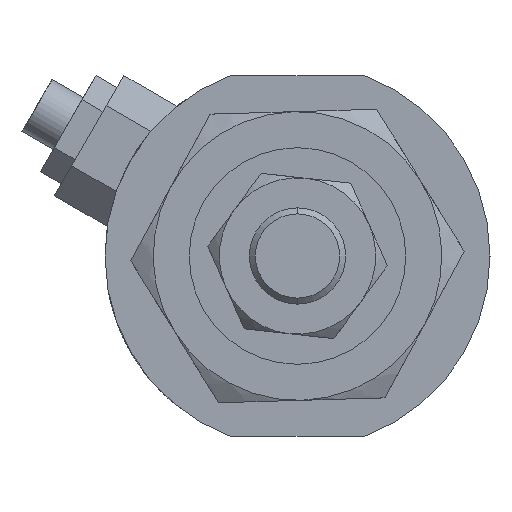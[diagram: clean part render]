
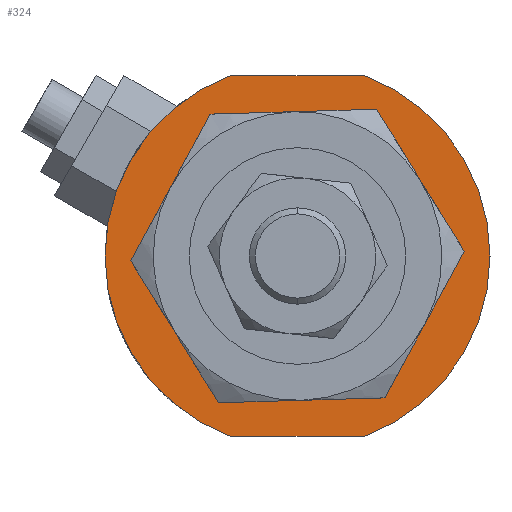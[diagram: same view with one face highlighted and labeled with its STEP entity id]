
A CAD part, left-side view. The second image highlights one B-rep face of the part: STEP entity #324.
In plain terms, the highlighted planar face has unit normal (-1, 0, 0).
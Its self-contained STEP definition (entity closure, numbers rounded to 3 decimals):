
#218 = CARTESIAN_POINT ( 'NONE',  ( 34., 0., 9.5 ) ) ;
#324 = ADVANCED_FACE ( 'NONE', ( #1475, #2744 ), #2490, .F. ) ;
#345 = ORIENTED_EDGE ( 'NONE', *, *, #686, .F. ) ;
#422 = DIRECTION ( 'NONE',  ( 0., 0., 1. ) ) ;
#431 = DIRECTION ( 'NONE',  ( 0., 0., 1. ) ) ;
#447 = DIRECTION ( 'NONE',  ( 0., -1., 0. ) ) ;
#499 = VERTEX_POINT ( 'NONE', #3468 ) ;
#520 = CARTESIAN_POINT ( 'NONE',  ( 34., 0., 0. ) ) ;
#618 = DIRECTION ( 'NONE',  ( -1., 0., 0. ) ) ;
#686 = EDGE_CURVE ( 'NONE', #1922, #2223, #1372, .T. ) ;
#767 = DIRECTION ( 'NONE',  ( -1., 0., 0. ) ) ;
#769 = CARTESIAN_POINT ( 'NONE',  ( 34., -5.568, 15. ) ) ;
#843 = CARTESIAN_POINT ( 'NONE',  ( 34., 0., -9.5 ) ) ;
#860 = CARTESIAN_POINT ( 'NONE',  ( 34., 0., 0. ) ) ;
#1153 = AXIS2_PLACEMENT_3D ( 'NONE', #520, #1262, #5022 ) ;
#1176 = EDGE_CURVE ( 'NONE', #499, #2223, #2916, .T. ) ;
#1259 = AXIS2_PLACEMENT_3D ( 'NONE', #1431, #2440, #422 ) ;
#1262 = DIRECTION ( 'NONE',  ( -1., 0., 0. ) ) ;
#1263 = LINE ( 'NONE', #1951, #4434 ) ;
#1372 = LINE ( 'NONE', #4958, #5005 ) ;
#1428 = DIRECTION ( 'NONE',  ( 0., 0., 1. ) ) ;
#1431 = CARTESIAN_POINT ( 'NONE',  ( 34., 0., 0. ) ) ;
#1475 = FACE_BOUND ( 'NONE', #4250, .T. ) ;
#1528 = ORIENTED_EDGE ( 'NONE', *, *, #4062, .F. ) ;
#1676 = VERTEX_POINT ( 'NONE', #3041 ) ;
#1815 = DIRECTION ( 'NONE',  ( 0., 0., -1. ) ) ;
#1922 = VERTEX_POINT ( 'NONE', #2050 ) ;
#1951 = CARTESIAN_POINT ( 'NONE',  ( 34., 15., -15. ) ) ;
#2050 = CARTESIAN_POINT ( 'NONE',  ( 34., 5.568, 15. ) ) ;
#2096 = ORIENTED_EDGE ( 'NONE', *, *, #2594, .F. ) ;
#2173 = EDGE_LOOP ( 'NONE', ( #3265, #3596, #3533, #345 ) ) ;
#2188 = VERTEX_POINT ( 'NONE', #843 ) ;
#2192 = CIRCLE ( 'NONE', #1259, 9.5 ) ;
#2223 = VERTEX_POINT ( 'NONE', #769 ) ;
#2240 = CARTESIAN_POINT ( 'NONE',  ( 34., 0., -16. ) ) ;
#2345 = CIRCLE ( 'NONE', #1153, 9.5 ) ;
#2440 = DIRECTION ( 'NONE',  ( -1., 0., 0. ) ) ;
#2467 = AXIS2_PLACEMENT_3D ( 'NONE', #4680, #767, #1428 ) ;
#2490 = PLANE ( 'NONE',  #3732 ) ;
#2594 = EDGE_CURVE ( 'NONE', #4218, #2188, #2192, .T. ) ;
#2744 = FACE_OUTER_BOUND ( 'NONE', #2173, .T. ) ;
#2870 = CIRCLE ( 'NONE', #4941, 16. ) ;
#2916 = CIRCLE ( 'NONE', #2467, 16. ) ;
#3041 = CARTESIAN_POINT ( 'NONE',  ( 34., 5.568, -15. ) ) ;
#3265 = ORIENTED_EDGE ( 'NONE', *, *, #4132, .T. ) ;
#3468 = CARTESIAN_POINT ( 'NONE',  ( 34., -5.568, -15. ) ) ;
#3533 = ORIENTED_EDGE ( 'NONE', *, *, #1176, .T. ) ;
#3596 = ORIENTED_EDGE ( 'NONE', *, *, #3806, .F. ) ;
#3732 = AXIS2_PLACEMENT_3D ( 'NONE', #2240, #4067, #1815 ) ;
#3806 = EDGE_CURVE ( 'NONE', #499, #1676, #1263, .T. ) ;
#4062 = EDGE_CURVE ( 'NONE', #2188, #4218, #2345, .T. ) ;
#4067 = DIRECTION ( 'NONE',  ( 1., 0., 0. ) ) ;
#4107 = DIRECTION ( 'NONE',  ( 0., 1., 0. ) ) ;
#4132 = EDGE_CURVE ( 'NONE', #1922, #1676, #2870, .T. ) ;
#4218 = VERTEX_POINT ( 'NONE', #218 ) ;
#4250 = EDGE_LOOP ( 'NONE', ( #2096, #1528 ) ) ;
#4434 = VECTOR ( 'NONE', #4107, 1000. ) ;
#4680 = CARTESIAN_POINT ( 'NONE',  ( 34., 0., 0. ) ) ;
#4941 = AXIS2_PLACEMENT_3D ( 'NONE', #860, #618, #431 ) ;
#4958 = CARTESIAN_POINT ( 'NONE',  ( 34., 15., 15. ) ) ;
#5005 = VECTOR ( 'NONE', #447, 1000. ) ;
#5022 = DIRECTION ( 'NONE',  ( 0., 0., 1. ) ) ;
